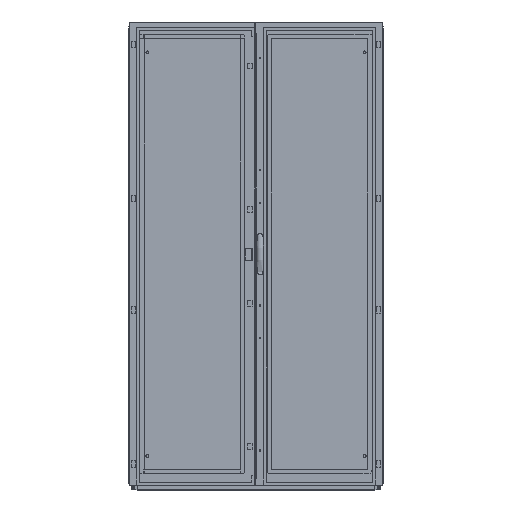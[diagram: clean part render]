
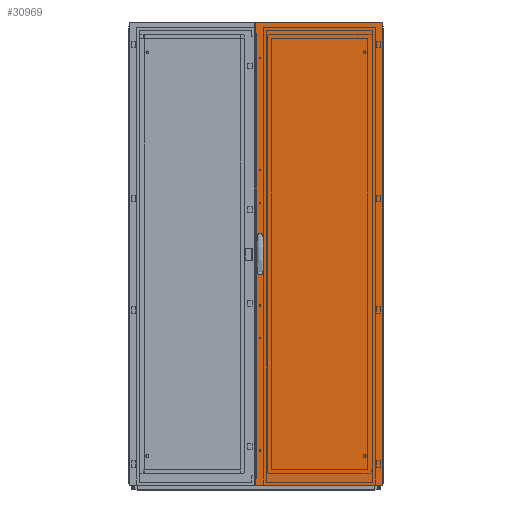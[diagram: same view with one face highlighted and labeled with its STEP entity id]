
A CAD part, top view. The second image highlights one B-rep face of the part: STEP entity #30969.
In plain terms, the highlighted planar face has unit normal (0, 0, 1) as drawn and (0, 0, -1) by its records, which use the part's own axes.
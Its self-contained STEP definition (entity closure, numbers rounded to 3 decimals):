
#367=CIRCLE('',#34717,2.6);
#368=CIRCLE('',#34718,2.6);
#3336=ORIENTED_EDGE('',*,*,#10972,.T.);
#3337=ORIENTED_EDGE('',*,*,#10973,.T.);
#3338=ORIENTED_EDGE('',*,*,#10974,.T.);
#3339=ORIENTED_EDGE('',*,*,#10975,.T.);
#3340=ORIENTED_EDGE('',*,*,#10976,.T.);
#3341=ORIENTED_EDGE('',*,*,#10977,.T.);
#3342=ORIENTED_EDGE('',*,*,#10978,.T.);
#3343=ORIENTED_EDGE('',*,*,#10979,.T.);
#3344=ORIENTED_EDGE('',*,*,#10980,.T.);
#3345=ORIENTED_EDGE('',*,*,#10981,.T.);
#3346=ORIENTED_EDGE('',*,*,#10982,.T.);
#3347=ORIENTED_EDGE('',*,*,#10983,.T.);
#3348=ORIENTED_EDGE('',*,*,#10984,.T.);
#3349=ORIENTED_EDGE('',*,*,#10985,.T.);
#3350=ORIENTED_EDGE('',*,*,#10986,.T.);
#3351=ORIENTED_EDGE('',*,*,#10987,.T.);
#3352=ORIENTED_EDGE('',*,*,#10988,.T.);
#3353=ORIENTED_EDGE('',*,*,#10989,.F.);
#3354=ORIENTED_EDGE('',*,*,#10990,.F.);
#3355=ORIENTED_EDGE('',*,*,#10991,.T.);
#3356=ORIENTED_EDGE('',*,*,#10992,.T.);
#3357=ORIENTED_EDGE('',*,*,#10993,.T.);
#10972=EDGE_CURVE('',#15000,#15001,#18243,.T.);
#10973=EDGE_CURVE('',#15001,#15002,#18244,.T.);
#10974=EDGE_CURVE('',#15002,#15003,#18245,.T.);
#10975=EDGE_CURVE('',#15003,#15004,#18246,.T.);
#10976=EDGE_CURVE('',#15004,#15005,#18247,.T.);
#10977=EDGE_CURVE('',#15005,#15006,#18248,.T.);
#10978=EDGE_CURVE('',#15006,#15007,#18249,.T.);
#10979=EDGE_CURVE('',#15007,#15008,#18250,.T.);
#10980=EDGE_CURVE('',#15008,#15009,#18251,.T.);
#10981=EDGE_CURVE('',#15009,#15010,#18252,.T.);
#10982=EDGE_CURVE('',#15010,#15011,#18253,.T.);
#10983=EDGE_CURVE('',#15011,#15012,#18254,.T.);
#10984=EDGE_CURVE('',#15012,#15013,#18255,.T.);
#10985=EDGE_CURVE('',#15013,#15014,#18256,.T.);
#10986=EDGE_CURVE('',#15014,#15015,#18257,.T.);
#10987=EDGE_CURVE('',#15015,#15000,#18258,.T.);
#10988=EDGE_CURVE('',#15016,#15017,#18259,.T.);
#10989=EDGE_CURVE('',#15018,#15017,#18260,.T.);
#10990=EDGE_CURVE('',#15019,#15018,#18261,.T.);
#10991=EDGE_CURVE('',#15019,#15016,#18262,.T.);
#10992=EDGE_CURVE('',#15020,#15020,#367,.T.);
#10993=EDGE_CURVE('',#15021,#15021,#368,.T.);
#15000=VERTEX_POINT('',#47130);
#15001=VERTEX_POINT('',#47131);
#15002=VERTEX_POINT('',#47133);
#15003=VERTEX_POINT('',#47135);
#15004=VERTEX_POINT('',#47137);
#15005=VERTEX_POINT('',#47139);
#15006=VERTEX_POINT('',#47141);
#15007=VERTEX_POINT('',#47143);
#15008=VERTEX_POINT('',#47145);
#15009=VERTEX_POINT('',#47147);
#15010=VERTEX_POINT('',#47149);
#15011=VERTEX_POINT('',#47151);
#15012=VERTEX_POINT('',#47153);
#15013=VERTEX_POINT('',#47155);
#15014=VERTEX_POINT('',#47157);
#15015=VERTEX_POINT('',#47159);
#15016=VERTEX_POINT('',#47162);
#15017=VERTEX_POINT('',#47163);
#15018=VERTEX_POINT('',#47165);
#15019=VERTEX_POINT('',#47167);
#15020=VERTEX_POINT('',#47170);
#15021=VERTEX_POINT('',#47172);
#18243=LINE('',#47129,#22230);
#18244=LINE('',#47132,#22231);
#18245=LINE('',#47134,#22232);
#18246=LINE('',#47136,#22233);
#18247=LINE('',#47138,#22234);
#18248=LINE('',#47140,#22235);
#18249=LINE('',#47142,#22236);
#18250=LINE('',#47144,#22237);
#18251=LINE('',#47146,#22238);
#18252=LINE('',#47148,#22239);
#18253=LINE('',#47150,#22240);
#18254=LINE('',#47152,#22241);
#18255=LINE('',#47154,#22242);
#18256=LINE('',#47156,#22243);
#18257=LINE('',#47158,#22244);
#18258=LINE('',#47160,#22245);
#18259=LINE('',#47161,#22246);
#18260=LINE('',#47164,#22247);
#18261=LINE('',#47166,#22248);
#18262=LINE('',#47168,#22249);
#22230=VECTOR('',#38552,1000.);
#22231=VECTOR('',#38553,1000.);
#22232=VECTOR('',#38554,1000.);
#22233=VECTOR('',#38555,1000.);
#22234=VECTOR('',#38556,1000.);
#22235=VECTOR('',#38557,1000.);
#22236=VECTOR('',#38558,1000.);
#22237=VECTOR('',#38559,1000.);
#22238=VECTOR('',#38560,1000.);
#22239=VECTOR('',#38561,1000.);
#22240=VECTOR('',#38562,1000.);
#22241=VECTOR('',#38563,1000.);
#22242=VECTOR('',#38564,1000.);
#22243=VECTOR('',#38565,1000.);
#22244=VECTOR('',#38566,1000.);
#22245=VECTOR('',#38567,1000.);
#22246=VECTOR('',#38568,1000.);
#22247=VECTOR('',#38569,1000.);
#22248=VECTOR('',#38570,1000.);
#22249=VECTOR('',#38571,1000.);
#25703=EDGE_LOOP('',(#3336,#3337,#3338,#3339,#3340,#3341,#3342,#3343,#3344,
#3345,#3346,#3347,#3348,#3349,#3350,#3351));
#25704=EDGE_LOOP('',(#3352,#3353,#3354,#3355));
#25705=EDGE_LOOP('',(#3356));
#25706=EDGE_LOOP('',(#3357));
#27659=FACE_BOUND('',#25703,.T.);
#27660=FACE_BOUND('',#25704,.T.);
#27661=FACE_BOUND('',#25705,.T.);
#27662=FACE_BOUND('',#25706,.T.);
#29449=PLANE('',#34716);
#30969=ADVANCED_FACE('',(#27659,#27660,#27661,#27662),#29449,.F.);
#34716=AXIS2_PLACEMENT_3D('',#47128,#38550,#38551);
#34717=AXIS2_PLACEMENT_3D('',#47169,#38572,#38573);
#34718=AXIS2_PLACEMENT_3D('',#47171,#38574,#38575);
#38550=DIRECTION('',(0.,0.,1.));
#38551=DIRECTION('',(1.,0.,0.));
#38552=DIRECTION('',(0.,-1.,0.));
#38553=DIRECTION('',(0.342,-0.94,0.));
#38554=DIRECTION('',(1.,0.,0.));
#38555=DIRECTION('',(0.,1.,0.));
#38556=DIRECTION('',(1.,0.,0.));
#38557=DIRECTION('',(0.,-1.,0.));
#38558=DIRECTION('',(1.,0.,0.));
#38559=DIRECTION('',(0.342,0.94,0.));
#38560=DIRECTION('',(0.,1.,0.));
#38561=DIRECTION('',(-0.342,0.94,0.));
#38562=DIRECTION('',(-1.,0.,0.));
#38563=DIRECTION('',(0.,-1.,0.));
#38564=DIRECTION('',(-1.,0.,0.));
#38565=DIRECTION('',(0.,1.,0.));
#38566=DIRECTION('',(-1.,0.,0.));
#38567=DIRECTION('',(-0.342,-0.94,0.));
#38568=DIRECTION('',(-1.,0.,0.));
#38569=DIRECTION('',(0.,-1.,0.));
#38570=DIRECTION('',(-1.,0.,0.));
#38571=DIRECTION('',(0.,-1.,0.));
#38572=DIRECTION('',(0.,0.,1.));
#38573=DIRECTION('',(1.,0.,0.));
#38574=DIRECTION('',(0.,0.,1.));
#38575=DIRECTION('',(1.,0.,0.));
#47128=CARTESIAN_POINT('',(299.,2182.,-16.8));
#47129=CARTESIAN_POINT('',(265.45,1156.256,-16.8));
#47130=CARTESIAN_POINT('',(265.45,1156.256,-16.8));
#47131=CARTESIAN_POINT('',(265.45,1025.744,-16.8));
#47132=CARTESIAN_POINT('',(265.45,1025.744,-16.8));
#47133=CARTESIAN_POINT('',(267.45,1020.25,-16.8));
#47134=CARTESIAN_POINT('',(267.45,1020.25,-16.8));
#47135=CARTESIAN_POINT('',(272.7,1020.25,-16.8));
#47136=CARTESIAN_POINT('',(272.7,1020.25,-16.8));
#47137=CARTESIAN_POINT('',(272.7,1028.,-16.8));
#47138=CARTESIAN_POINT('',(272.7,1028.,-16.8));
#47139=CARTESIAN_POINT('',(283.7,1028.,-16.8));
#47140=CARTESIAN_POINT('',(283.7,1028.,-16.8));
#47141=CARTESIAN_POINT('',(283.7,1020.25,-16.8));
#47142=CARTESIAN_POINT('',(283.7,1020.25,-16.8));
#47143=CARTESIAN_POINT('',(288.95,1020.25,-16.8));
#47144=CARTESIAN_POINT('',(288.95,1020.25,-16.8));
#47145=CARTESIAN_POINT('',(290.95,1025.744,-16.8));
#47146=CARTESIAN_POINT('',(290.95,1025.744,-16.8));
#47147=CARTESIAN_POINT('',(290.95,1156.256,-16.8));
#47148=CARTESIAN_POINT('',(290.95,1156.256,-16.8));
#47149=CARTESIAN_POINT('',(288.95,1161.75,-16.8));
#47150=CARTESIAN_POINT('',(288.95,1161.75,-16.8));
#47151=CARTESIAN_POINT('',(283.7,1161.75,-16.8));
#47152=CARTESIAN_POINT('',(283.7,1161.75,-16.8));
#47153=CARTESIAN_POINT('',(283.7,1154.,-16.8));
#47154=CARTESIAN_POINT('',(283.7,1154.,-16.8));
#47155=CARTESIAN_POINT('',(272.7,1154.,-16.8));
#47156=CARTESIAN_POINT('',(272.7,1154.,-16.8));
#47157=CARTESIAN_POINT('',(272.7,1161.75,-16.8));
#47158=CARTESIAN_POINT('',(272.7,1161.75,-16.8));
#47159=CARTESIAN_POINT('',(267.45,1161.75,-16.8));
#47160=CARTESIAN_POINT('',(267.45,1161.75,-16.8));
#47161=CARTESIAN_POINT('',(299.,0.,-16.8));
#47162=CARTESIAN_POINT('',(299.,0.,-16.8));
#47163=CARTESIAN_POINT('',(-299.,0.,-16.8));
#47164=CARTESIAN_POINT('',(-299.,2182.,-16.8));
#47165=CARTESIAN_POINT('',(-299.,2182.,-16.8));
#47166=CARTESIAN_POINT('',(299.,2182.,-16.8));
#47167=CARTESIAN_POINT('',(299.,2182.,-16.8));
#47168=CARTESIAN_POINT('',(299.,2182.,-16.8));
#47169=CARTESIAN_POINT('',(278.2,1161.,-16.8));
#47170=CARTESIAN_POINT('',(280.8,1161.,-16.8));
#47171=CARTESIAN_POINT('',(278.2,1021.,-16.8));
#47172=CARTESIAN_POINT('',(280.8,1021.,-16.8));
